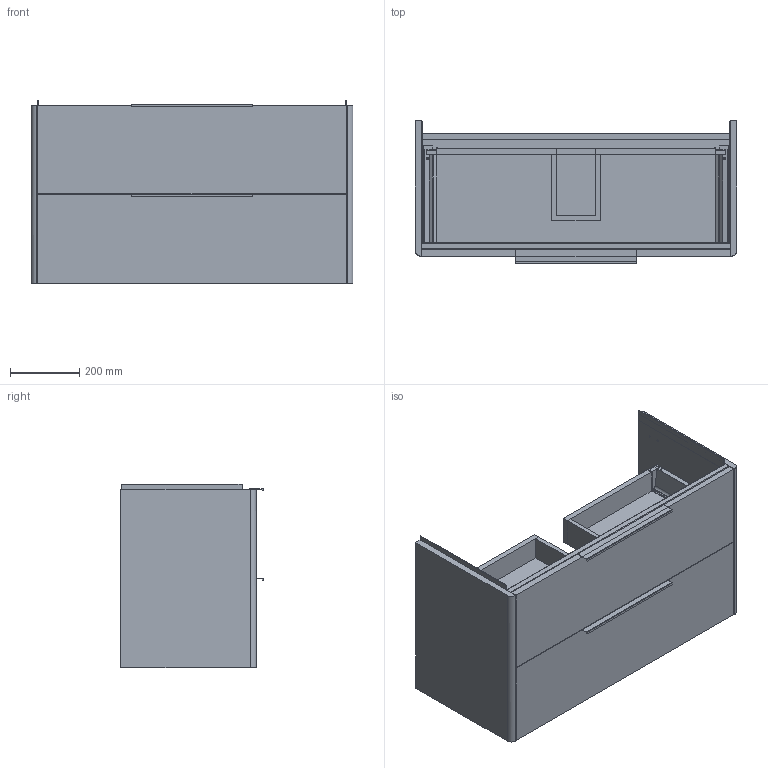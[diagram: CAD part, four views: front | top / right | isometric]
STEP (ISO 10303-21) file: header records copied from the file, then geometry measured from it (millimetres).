
FILE_DESCRIPTION(/* description */ (''),/* implementation_level */ '2;1');
FILE_NAME(/* name */ '3D7E65~1',/* time_stamp */ '2018-05-07T13:23:31+02:00',/* author */ (''),/* organization */ (''),/* preprocessor_version */ 'ST-DEVELOPER v15',/* originating_system */ '',/* authorisation */ '');
FILE_SCHEMA (('AUTOMOTIVE_DESIGN'));
Length unit declared in the file: millimetre
Products named in the file (23): Document; 300-84_MIR5; 300-84_1_MIR5; 300-84_2_MIR5; 300-84_3_MIR5; 300-84; 300-84_1; 300-84_2; 300-84_3; maniglia inferiore; Maniglia superiore; Frontale cassetto inferiore; Retro_cassetto inferiore; Fascia rialzo; Retro cassetto superiore; Fondo cassetto inferiore; Fondo cassetto superiore; Fondo mobile; Fianco dx; Fianco sx; Catena inferiore; Frontale cassetto superiore; Catena_superiore
Assembly tree (24 placements, depth 3):
  Document
    300-84_MIR5  x2
      300-84_1_MIR5
      300-84_2_MIR5
      300-84_3_MIR5
    300-84  x2
      300-84_1
      300-84_2
      300-84_3
    maniglia inferiore
    Maniglia superiore
    Frontale cassetto inferiore
    Retro_cassetto inferiore
    Fascia rialzo
    Retro cassetto superiore
    Fondo cassetto inferiore
    Fondo cassetto superiore
    Fondo mobile
    Fianco dx
    Fianco sx
    Catena inferiore
    Frontale cassetto superiore
    Catena_superiore
Bounding box: 929.5 x 411.1 x 529 mm (x, y, z)
Volume: 34621177.9 mm3; surface area: 4926566 mm2
Topology: 28 solids, 28 shells, 1051 faces, 3125 edges, 2166 vertices
Faces by surface type: plane 772, bspline 279
Entity records: 19782 total; most frequent: CARTESIAN_POINT 7907, ORIENTED_EDGE 3454, EDGE_CURVE 1727, B_SPLINE_CURVE_WITH_KNOTS 1283, VERTEX_POINT 1198, EDGE_LOOP 689, ADVANCED_FACE 595, FACE_OUTER_BOUND 595
